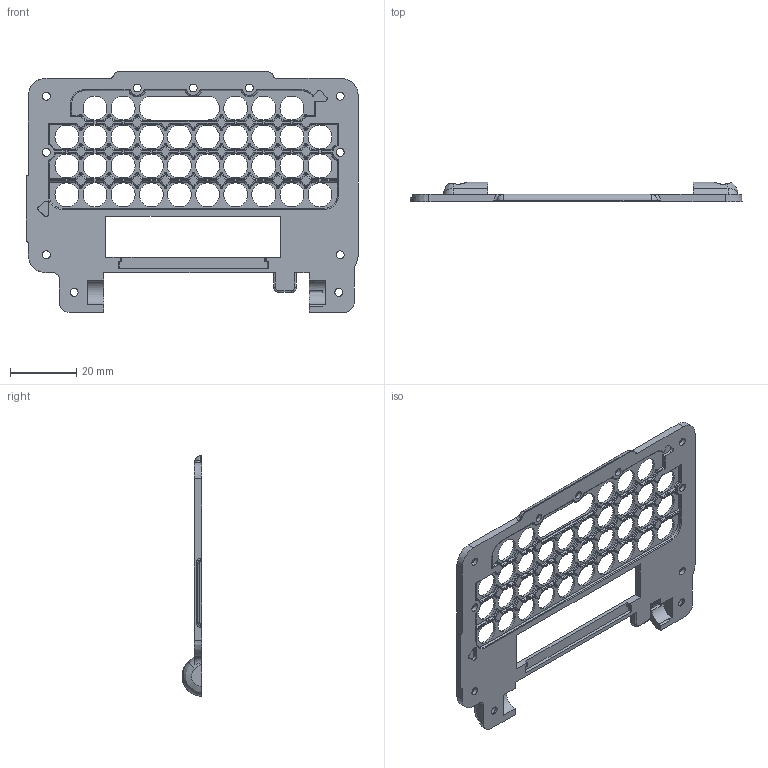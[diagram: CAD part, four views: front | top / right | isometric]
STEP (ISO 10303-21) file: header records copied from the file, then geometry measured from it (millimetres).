
FILE_DESCRIPTION(/* description */ (''),/* implementation_level */ '2;1');
FILE_NAME(/* name */ 'topFrameFDM.step',/* time_stamp */ '2026-07-04T14:07:28-07:00',/* author */ (''),/* organization */ (''),/* preprocessor_version */ 'ST-DEVELOPER v20.1',/* originating_system */ 'Autodesk Translation Framework v15.8.0.0',/* authorisation */ '');
FILE_SCHEMA (('AUTOMOTIVE_DESIGN { 1 0 10303 214 3 1 1 }'));
Products named in the file (1): topFrame
Bounding box: 100.57 x 6 x 72.82 mm (x, y, z)
Volume: 7859.8 mm3; surface area: 10891.1 mm2
Topology: 1 solids, 1 shells, 1398 faces, 3757 edges, 2152 vertices
Faces by surface type: bspline 369, torus 347, plane 244, cylinder 232, cone 204, sphere 2
Full cylindrical faces by diameter (mm): 2.4 x11
Entity records: 61175 total; most frequent: CARTESIAN_POINT 29393, ORIENTED_EDGE 7170, DIRECTION 6053, EDGE_CURVE 3585, AXIS2_PLACEMENT_3D 2550, VERTEX_POINT 2152, EDGE_LOOP 1457, FACE_OUTER_BOUND 1398
